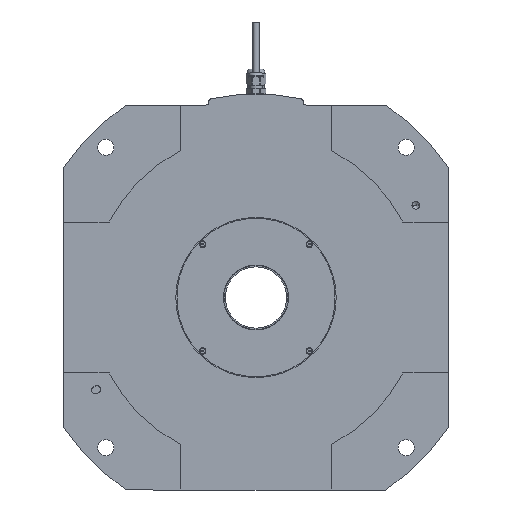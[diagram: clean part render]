
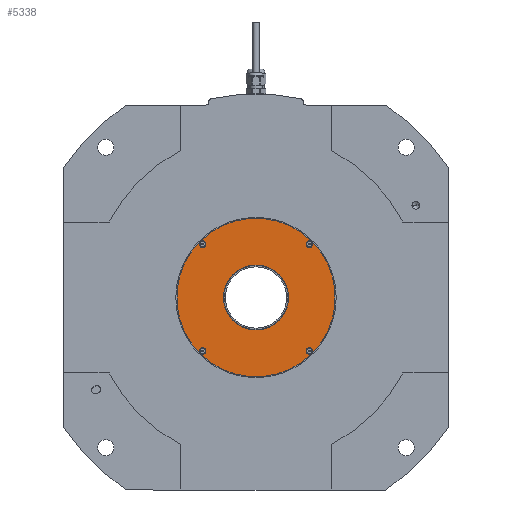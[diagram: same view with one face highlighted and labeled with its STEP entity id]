
A CAD part, front view. The second image highlights one B-rep face of the part: STEP entity #5338.
In plain terms, the highlighted planar face has unit normal (0, -1, 0).
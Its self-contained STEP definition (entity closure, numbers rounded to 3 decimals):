
#28 = CIRCLE ( 'NONE', #21484, 2. ) ;
#223 = CIRCLE ( 'NONE', #12032, 2. ) ;
#1018 = EDGE_CURVE ( 'NONE', #8882, #2473, #30599, .T. ) ;
#1047 = EDGE_CURVE ( 'NONE', #32945, #18446, #28, .T. ) ;
#1254 = EDGE_CURVE ( 'NONE', #11013, #22707, #16126, .T. ) ;
#1368 = DIRECTION ( 'NONE',  ( 0.707, 0., 0.707 ) ) ;
#1481 = CARTESIAN_POINT ( 'NONE',  ( 59.397, 2., 59.397 ) ) ;
#1752 = DIRECTION ( 'NONE',  ( 0.707, 0., 0.707 ) ) ;
#2063 = EDGE_CURVE ( 'NONE', #22707, #11013, #26281, .T. ) ;
#2265 = CARTESIAN_POINT ( 'NONE',  ( 56.569, 2., -56.569 ) ) ;
#2396 = VERTEX_POINT ( 'NONE', #18687 ) ;
#2473 = VERTEX_POINT ( 'NONE', #22209 ) ;
#3115 = ORIENTED_EDGE ( 'NONE', *, *, #8241, .T. ) ;
#3724 = AXIS2_PLACEMENT_3D ( 'NONE', #13848, #15904, #13344 ) ;
#4035 = ORIENTED_EDGE ( 'NONE', *, *, #22161, .F. ) ;
#4435 = CARTESIAN_POINT ( 'NONE',  ( 0., 2., 0. ) ) ;
#4867 = DIRECTION ( 'NONE',  ( 0., 1., 0. ) ) ;
#5338 = ADVANCED_FACE ( 'NONE', ( #14835, #25078, #22051, #27430, #8111, #14154 ), #19699, .F. ) ;
#5566 = ORIENTED_EDGE ( 'NONE', *, *, #1047, .T. ) ;
#6697 = VERTEX_POINT ( 'NONE', #28063 ) ;
#6758 = DIRECTION ( 'NONE',  ( 0.707, 0., 0.707 ) ) ;
#7562 = CARTESIAN_POINT ( 'NONE',  ( -56.569, 2., -56.569 ) ) ;
#8111 = FACE_BOUND ( 'NONE', #18115, .T. ) ;
#8239 = EDGE_CURVE ( 'NONE', #24657, #25177, #23549, .T. ) ;
#8241 = EDGE_CURVE ( 'NONE', #2473, #8882, #31062, .T. ) ;
#8882 = VERTEX_POINT ( 'NONE', #12692 ) ;
#9197 = DIRECTION ( 'NONE',  ( -0.707, 0., 0.707 ) ) ;
#9497 = DIRECTION ( 'NONE',  ( 0., 1., 0. ) ) ;
#10038 = CARTESIAN_POINT ( 'NONE',  ( 0., 2., 0. ) ) ;
#10201 = DIRECTION ( 'NONE',  ( 0., 1., 0. ) ) ;
#10370 = CIRCLE ( 'NONE', #31816, 2. ) ;
#10832 = DIRECTION ( 'NONE',  ( 0.707, 0., 0.707 ) ) ;
#11013 = VERTEX_POINT ( 'NONE', #18319 ) ;
#11148 = ORIENTED_EDGE ( 'NONE', *, *, #1254, .T. ) ;
#11240 = CIRCLE ( 'NONE', #15020, 2. ) ;
#11376 = ORIENTED_EDGE ( 'NONE', *, *, #26202, .T. ) ;
#11399 = ORIENTED_EDGE ( 'NONE', *, *, #2063, .T. ) ;
#11438 = CIRCLE ( 'NONE', #14108, 84. ) ;
#11642 = DIRECTION ( 'NONE',  ( 0., 1., 0. ) ) ;
#11969 = CARTESIAN_POINT ( 'NONE',  ( -56.569, 2., -56.569 ) ) ;
#12032 = AXIS2_PLACEMENT_3D ( 'NONE', #11969, #30098, #1368 ) ;
#12294 = EDGE_LOOP ( 'NONE', ( #11376, #23214 ) ) ;
#12314 = AXIS2_PLACEMENT_3D ( 'NONE', #4435, #9497, #1752 ) ;
#12457 = DIRECTION ( 'NONE',  ( 0., 1., 0. ) ) ;
#12659 = DIRECTION ( 'NONE',  ( 0.707, 0., -0.707 ) ) ;
#12692 = CARTESIAN_POINT ( 'NONE',  ( 24.395, 2., 24.395 ) ) ;
#13303 = EDGE_CURVE ( 'NONE', #6697, #23032, #26271, .T. ) ;
#13344 = DIRECTION ( 'NONE',  ( -0.707, 0., -0.707 ) ) ;
#13696 = DIRECTION ( 'NONE',  ( 0., 1., 0. ) ) ;
#13848 = CARTESIAN_POINT ( 'NONE',  ( 56.569, 2., 56.569 ) ) ;
#14108 = AXIS2_PLACEMENT_3D ( 'NONE', #31660, #13696, #10832 ) ;
#14125 = CARTESIAN_POINT ( 'NONE',  ( -57.983, 2., -57.983 ) ) ;
#14154 = FACE_OUTER_BOUND ( 'NONE', #20726, .T. ) ;
#14461 = EDGE_LOOP ( 'NONE', ( #32186, #24841 ) ) ;
#14740 = CIRCLE ( 'NONE', #24934, 2. ) ;
#14835 = FACE_BOUND ( 'NONE', #12294, .T. ) ;
#14866 = EDGE_CURVE ( 'NONE', #2396, #14970, #11240, .T. ) ;
#14970 = VERTEX_POINT ( 'NONE', #30779 ) ;
#15016 = CARTESIAN_POINT ( 'NONE',  ( 55.154, 2., -57.983 ) ) ;
#15020 = AXIS2_PLACEMENT_3D ( 'NONE', #24415, #11642, #12659 ) ;
#15262 = EDGE_LOOP ( 'NONE', ( #11399, #11148 ) ) ;
#15904 = DIRECTION ( 'NONE',  ( 0., 1., 0. ) ) ;
#16126 = CIRCLE ( 'NONE', #26853, 2. ) ;
#16144 = DIRECTION ( 'NONE',  ( 0., 1., 0. ) ) ;
#17356 = CARTESIAN_POINT ( 'NONE',  ( 57.983, 2., 57.983 ) ) ;
#18115 = EDGE_LOOP ( 'NONE', ( #25344, #3115 ) ) ;
#18319 = CARTESIAN_POINT ( 'NONE',  ( 55.154, 2., 55.154 ) ) ;
#18446 = VERTEX_POINT ( 'NONE', #14125 ) ;
#18687 = CARTESIAN_POINT ( 'NONE',  ( -57.983, 2., 55.154 ) ) ;
#19441 = CARTESIAN_POINT ( 'NONE',  ( 57.983, 2., -55.154 ) ) ;
#19603 = ORIENTED_EDGE ( 'NONE', *, *, #22670, .T. ) ;
#19699 = PLANE ( 'NONE',  #22758 ) ;
#19959 = DIRECTION ( 'NONE',  ( 0.707, 0., 0.707 ) ) ;
#20726 = EDGE_LOOP ( 'NONE', ( #27351, #4035 ) ) ;
#21187 = CARTESIAN_POINT ( 'NONE',  ( 56.569, 2., 56.569 ) ) ;
#21484 = AXIS2_PLACEMENT_3D ( 'NONE', #7562, #12457, #22706 ) ;
#21971 = EDGE_CURVE ( 'NONE', #25177, #24657, #10370, .T. ) ;
#21978 = CARTESIAN_POINT ( 'NONE',  ( 56.569, 2., -56.569 ) ) ;
#22051 = FACE_BOUND ( 'NONE', #14461, .T. ) ;
#22161 = EDGE_CURVE ( 'NONE', #23032, #6697, #11438, .T. ) ;
#22209 = CARTESIAN_POINT ( 'NONE',  ( -24.395, 2., -24.395 ) ) ;
#22670 = EDGE_CURVE ( 'NONE', #18446, #32945, #223, .T. ) ;
#22706 = DIRECTION ( 'NONE',  ( 0.707, 0., 0.707 ) ) ;
#22707 = VERTEX_POINT ( 'NONE', #17356 ) ;
#22758 = AXIS2_PLACEMENT_3D ( 'NONE', #27096, #32467, #6758 ) ;
#23032 = VERTEX_POINT ( 'NONE', #1481 ) ;
#23214 = ORIENTED_EDGE ( 'NONE', *, *, #14866, .T. ) ;
#23549 = CIRCLE ( 'NONE', #24104, 2. ) ;
#24104 = AXIS2_PLACEMENT_3D ( 'NONE', #21978, #32218, #9197 ) ;
#24415 = CARTESIAN_POINT ( 'NONE',  ( -56.569, 2., 56.569 ) ) ;
#24657 = VERTEX_POINT ( 'NONE', #19441 ) ;
#24841 = ORIENTED_EDGE ( 'NONE', *, *, #21971, .T. ) ;
#24934 = AXIS2_PLACEMENT_3D ( 'NONE', #32510, #30142, #25268 ) ;
#25078 = FACE_BOUND ( 'NONE', #15262, .T. ) ;
#25177 = VERTEX_POINT ( 'NONE', #15016 ) ;
#25268 = DIRECTION ( 'NONE',  ( 0.707, 0., -0.707 ) ) ;
#25344 = ORIENTED_EDGE ( 'NONE', *, *, #1018, .T. ) ;
#26202 = EDGE_CURVE ( 'NONE', #14970, #2396, #14740, .T. ) ;
#26271 = CIRCLE ( 'NONE', #12314, 84. ) ;
#26281 = CIRCLE ( 'NONE', #3724, 2. ) ;
#26312 = AXIS2_PLACEMENT_3D ( 'NONE', #32776, #4867, #30094 ) ;
#26853 = AXIS2_PLACEMENT_3D ( 'NONE', #21187, #16144, #31256 ) ;
#27096 = CARTESIAN_POINT ( 'NONE',  ( 0., 2., 0. ) ) ;
#27172 = DIRECTION ( 'NONE',  ( -0.707, 0., 0.707 ) ) ;
#27351 = ORIENTED_EDGE ( 'NONE', *, *, #13303, .F. ) ;
#27430 = FACE_BOUND ( 'NONE', #29861, .T. ) ;
#28063 = CARTESIAN_POINT ( 'NONE',  ( -59.397, 2., -59.397 ) ) ;
#28129 = CARTESIAN_POINT ( 'NONE',  ( -55.154, 2., -55.154 ) ) ;
#29451 = AXIS2_PLACEMENT_3D ( 'NONE', #10038, #10201, #19959 ) ;
#29861 = EDGE_LOOP ( 'NONE', ( #5566, #19603 ) ) ;
#30094 = DIRECTION ( 'NONE',  ( 0.707, 0., 0.707 ) ) ;
#30098 = DIRECTION ( 'NONE',  ( 0., 1., 0. ) ) ;
#30142 = DIRECTION ( 'NONE',  ( 0., 1., 0. ) ) ;
#30599 = CIRCLE ( 'NONE', #26312, 34.5 ) ;
#30779 = CARTESIAN_POINT ( 'NONE',  ( -55.154, 2., 57.983 ) ) ;
#31062 = CIRCLE ( 'NONE', #29451, 34.5 ) ;
#31256 = DIRECTION ( 'NONE',  ( -0.707, 0., -0.707 ) ) ;
#31660 = CARTESIAN_POINT ( 'NONE',  ( 0., 2., 0. ) ) ;
#31816 = AXIS2_PLACEMENT_3D ( 'NONE', #2265, #32193, #27172 ) ;
#32186 = ORIENTED_EDGE ( 'NONE', *, *, #8239, .T. ) ;
#32193 = DIRECTION ( 'NONE',  ( 0., 1., 0. ) ) ;
#32218 = DIRECTION ( 'NONE',  ( 0., 1., 0. ) ) ;
#32467 = DIRECTION ( 'NONE',  ( 0., 1., 0. ) ) ;
#32510 = CARTESIAN_POINT ( 'NONE',  ( -56.569, 2., 56.569 ) ) ;
#32776 = CARTESIAN_POINT ( 'NONE',  ( 0., 2., 0. ) ) ;
#32945 = VERTEX_POINT ( 'NONE', #28129 ) ;
